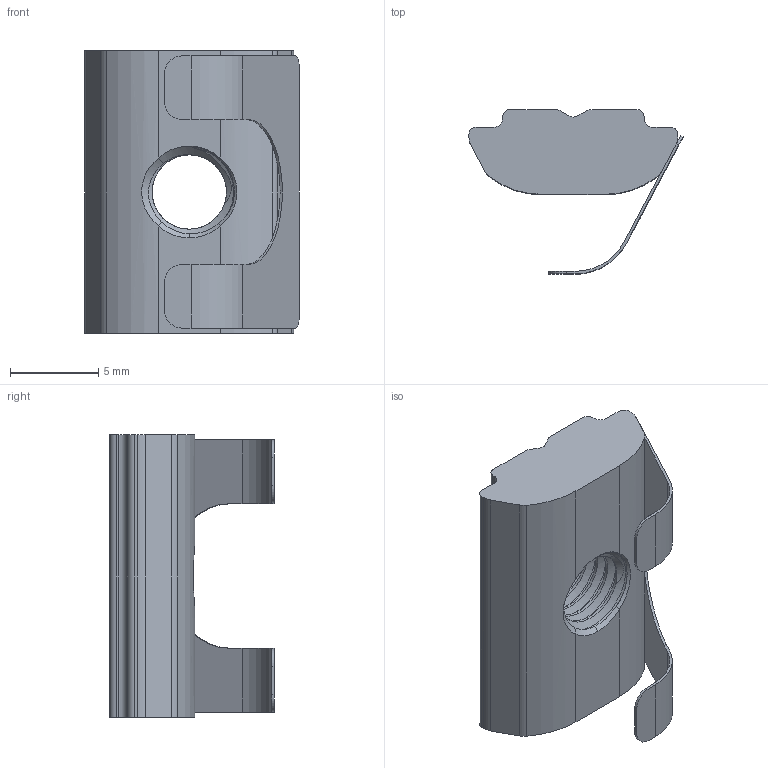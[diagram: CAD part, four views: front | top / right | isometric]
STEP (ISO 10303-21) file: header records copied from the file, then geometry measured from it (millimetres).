
FILE_DESCRIPTION (( 'STEP AP203' ), '1' );
FILE_NAME ('3306.008.002.STEP', '2023-05-24T05:01:31', ( '' ), ( '' ), 'SwSTEP 2.0', 'SolidWorks 2022', '' );
FILE_SCHEMA (( 'CONFIG_CONTROL_DESIGN' ));
Length unit declared in the file: millimetre
Products named in the file (3): 3306-粟え; 3306.008.002; 3306
Assembly tree (2 placements, depth 2):
  3306.008.002
    3306
    3306-粟え
Bounding box: 12.11 x 9.3 x 16 mm (x, y, z)
Volume: 672 mm3; surface area: 849.5 mm2
Topology: 2 solids, 2 shells, 83 faces, 239 edges, 158 vertices
Faces by surface type: cylinder 39, plane 31, bspline 7, cone 6
Entity records: 5835 total; most frequent: CARTESIAN_POINT 3469, ORIENTED_EDGE 478, DIRECTION 397, EDGE_CURVE 239, VERTEX_POINT 158, AXIS2_PLACEMENT_3D 140, VECTOR 117, LINE 117
